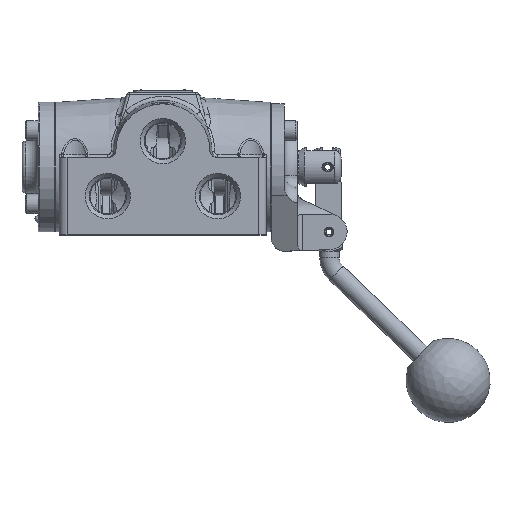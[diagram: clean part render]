
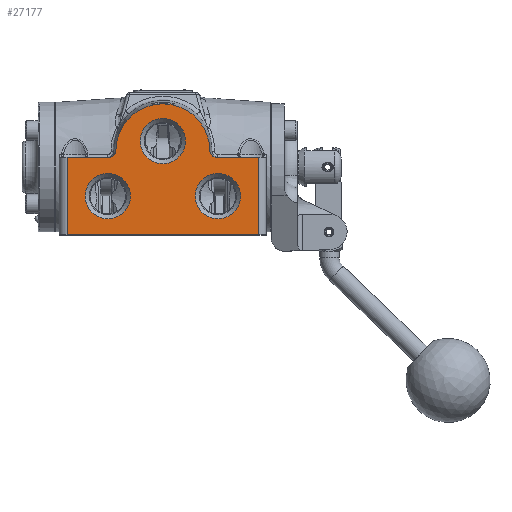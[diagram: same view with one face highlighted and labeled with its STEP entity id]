
A CAD part, top view. The second image highlights one B-rep face of the part: STEP entity #27177.
In plain terms, the highlighted planar face has unit normal (0, 0, 1).
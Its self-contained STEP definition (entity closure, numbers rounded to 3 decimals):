
#911=FACE_BOUND('',#4868,.T.);
#912=FACE_BOUND('',#4869,.T.);
#913=FACE_BOUND('',#4870,.T.);
#2384=PLANE('',#29209);
#3158=FACE_OUTER_BOUND('',#4867,.T.);
#4867=EDGE_LOOP('',(#18936,#18937,#18938,#18939,#18940,#18941,#18942,#18943));
#4868=EDGE_LOOP('',(#18944));
#4869=EDGE_LOOP('',(#18945));
#4870=EDGE_LOOP('',(#18946));
#6363=CIRCLE('',#28827,1.111);
#6392=CIRCLE('',#28910,1.111);
#6399=CIRCLE('',#28925,1.111);
#6553=CIRCLE('',#29211,2.302);
#7489=ELLIPSE('',#29210,0.319,0.318);
#7490=ELLIPSE('',#29212,0.319,0.318);
#7985=LINE('',#41913,#9435);
#8019=LINE('',#43494,#9469);
#8020=LINE('',#43498,#9470);
#8021=LINE('',#43500,#9471);
#8022=LINE('',#43507,#9472);
#9435=VECTOR('',#32834,1.);
#9469=VECTOR('',#33086,1.);
#9470=VECTOR('',#33091,1.);
#9471=VECTOR('',#33092,1.);
#9472=VECTOR('',#33099,1.);
#10810=VERTEX_POINT('',#39642);
#10941=VERTEX_POINT('',#40744);
#10964=VERTEX_POINT('',#40911);
#11115=VERTEX_POINT('',#41909);
#11117=VERTEX_POINT('',#41912);
#11210=VERTEX_POINT('',#43493);
#11211=VERTEX_POINT('',#43497);
#11212=VERTEX_POINT('',#43499);
#11213=VERTEX_POINT('',#43501);
#11214=VERTEX_POINT('',#43503);
#11215=VERTEX_POINT('',#43505);
#13479=EDGE_CURVE('',#10810,#10810,#6363,.T.);
#13651=EDGE_CURVE('',#10941,#10941,#6392,.T.);
#13679=EDGE_CURVE('',#10964,#10964,#6399,.T.);
#13908=EDGE_CURVE('',#11117,#11115,#7985,.T.);
#14060=EDGE_CURVE('',#11117,#11210,#8019,.T.);
#14062=EDGE_CURVE('',#11211,#11115,#8020,.T.);
#14063=EDGE_CURVE('',#11211,#11212,#8021,.T.);
#14064=EDGE_CURVE('',#11213,#11212,#7489,.T.);
#14065=EDGE_CURVE('',#11214,#11213,#6553,.T.);
#14066=EDGE_CURVE('',#11215,#11214,#7490,.T.);
#14067=EDGE_CURVE('',#11215,#11210,#8022,.T.);
#18936=ORIENTED_EDGE('',*,*,#13908,.T.);
#18937=ORIENTED_EDGE('',*,*,#14062,.F.);
#18938=ORIENTED_EDGE('',*,*,#14063,.T.);
#18939=ORIENTED_EDGE('',*,*,#14064,.F.);
#18940=ORIENTED_EDGE('',*,*,#14065,.F.);
#18941=ORIENTED_EDGE('',*,*,#14066,.F.);
#18942=ORIENTED_EDGE('',*,*,#14067,.T.);
#18943=ORIENTED_EDGE('',*,*,#14060,.F.);
#18944=ORIENTED_EDGE('',*,*,#13479,.T.);
#18945=ORIENTED_EDGE('',*,*,#13651,.T.);
#18946=ORIENTED_EDGE('',*,*,#13679,.T.);
#27177=ADVANCED_FACE('',(#3158,#911,#912,#913),#2384,.T.);
#28827=AXIS2_PLACEMENT_3D('',#39643,#32164,#32165);
#28910=AXIS2_PLACEMENT_3D('',#40745,#32375,#32376);
#28925=AXIS2_PLACEMENT_3D('',#40912,#32412,#32413);
#29209=AXIS2_PLACEMENT_3D('',#43496,#33089,#33090);
#29210=AXIS2_PLACEMENT_3D('',#43502,#33093,#33094);
#29211=AXIS2_PLACEMENT_3D('',#43504,#33095,#33096);
#29212=AXIS2_PLACEMENT_3D('',#43506,#33097,#33098);
#32164=DIRECTION('center_axis',(0.,0.,-1.));
#32165=DIRECTION('ref_axis',(1.,0.,0.));
#32375=DIRECTION('center_axis',(0.,0.,-1.));
#32376=DIRECTION('ref_axis',(1.,0.,0.));
#32412=DIRECTION('center_axis',(0.,0.,-1.));
#32413=DIRECTION('ref_axis',(1.,0.,0.));
#32834=DIRECTION('',(1.,0.,0.));
#33086=DIRECTION('',(0.,1.,0.));
#33089=DIRECTION('center_axis',(0.,0.,1.));
#33090=DIRECTION('ref_axis',(1.,0.,0.));
#33091=DIRECTION('',(0.,-1.,0.));
#33092=DIRECTION('',(-1.,0.,0.));
#33093=DIRECTION('center_axis',(0.,0.,1.));
#33094=DIRECTION('ref_axis',(-1.,0.,0.));
#33095=DIRECTION('center_axis',(0.,0.,-1.));
#33096=DIRECTION('ref_axis',(-1.,0.,0.));
#33097=DIRECTION('center_axis',(0.,0.,1.));
#33098=DIRECTION('ref_axis',(1.,0.,0.));
#33099=DIRECTION('',(-1.,0.,0.));
#39642=CARTESIAN_POINT('',(-1.111,1.271,4.445));
#39643=CARTESIAN_POINT('Origin',(0.,1.271,4.445));
#40744=CARTESIAN_POINT('',(-3.81,-1.429,4.445));
#40745=CARTESIAN_POINT('Origin',(-2.699,-1.429,4.445));
#40911=CARTESIAN_POINT('',(1.588,-1.429,4.445));
#40912=CARTESIAN_POINT('Origin',(2.699,-1.429,4.445));
#41909=CARTESIAN_POINT('',(4.683,-3.334,4.445));
#41912=CARTESIAN_POINT('',(-4.683,-3.334,4.445));
#41913=CARTESIAN_POINT('',(5.239,-3.334,4.445));
#43493=CARTESIAN_POINT('',(-4.683,0.476,4.445));
#43494=CARTESIAN_POINT('',(-4.683,-3.493,4.445));
#43496=CARTESIAN_POINT('Origin',(5.08,-3.493,4.445));
#43497=CARTESIAN_POINT('',(4.683,0.476,4.445));
#43498=CARTESIAN_POINT('',(4.683,-3.493,4.445));
#43499=CARTESIAN_POINT('',(2.621,0.476,4.445));
#43500=CARTESIAN_POINT('',(-5.08,0.476,4.445));
#43501=CARTESIAN_POINT('',(2.302,0.794,4.445));
#43502=CARTESIAN_POINT('Origin',(2.621,0.794,4.445));
#43503=CARTESIAN_POINT('',(-2.302,0.794,4.445));
#43504=CARTESIAN_POINT('Origin',(0.,0.794,4.445));
#43505=CARTESIAN_POINT('',(-2.621,0.476,4.445));
#43506=CARTESIAN_POINT('Origin',(-2.621,0.794,4.445));
#43507=CARTESIAN_POINT('',(-5.08,0.476,4.445));
